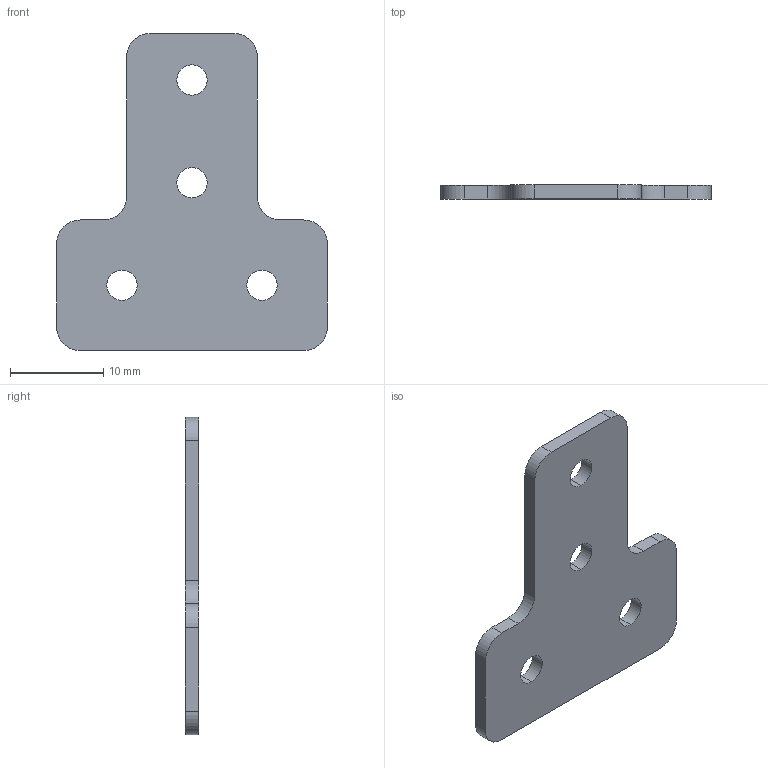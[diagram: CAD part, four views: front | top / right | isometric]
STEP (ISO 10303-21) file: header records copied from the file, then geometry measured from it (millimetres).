
FILE_DESCRIPTION (( 'STEP AP214' ), '1' );
FILE_NAME ('SNSD.15.01.18 Ò-ñîåäåíèòåëü_30õ40B(S11).STEP', '2015-06-24T09:58:37', ( 'user' ), ( '' ), 'SwSTEP 2.0', 'SolidWorks 2014', '' );
FILE_SCHEMA (( 'AUTOMOTIVE_DESIGN' ));
Length unit declared in the file: millimetre
Products named in the file (2): SNSD.15.01.18 Ò-ñîåäåíèòåëü_30õ40B(S11)
Bounding box: 29 x 1.5 x 34 mm (x, y, z)
Volume: 971.2 mm3; surface area: 1532.3 mm2
Topology: 1 solids, 1 shells, 26 faces, 72 edges, 48 vertices
Faces by surface type: cylinder 16, plane 10
Entity records: 913 total; most frequent: DIRECTION 160, CARTESIAN_POINT 148, ORIENTED_EDGE 144, EDGE_CURVE 72, AXIS2_PLACEMENT_3D 60, VERTEX_POINT 48, VECTOR 40, LINE 40
